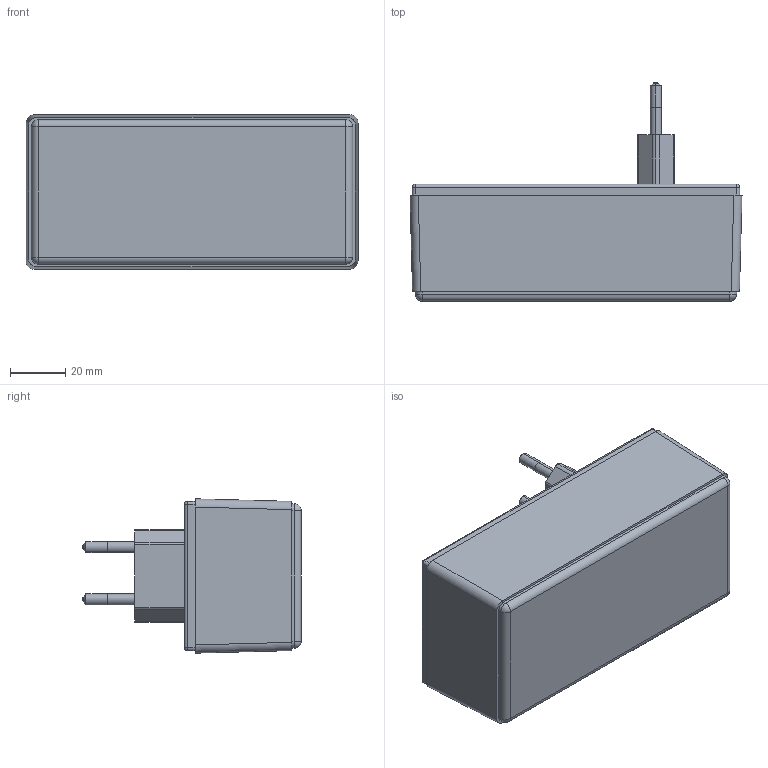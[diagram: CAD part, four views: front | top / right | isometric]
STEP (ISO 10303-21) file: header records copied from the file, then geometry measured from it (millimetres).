
FILE_DESCRIPTION (( 'STEP AP214' ), '1' );
FILE_NAME ('Conjunt PP55.STEP', '2017-01-23T11:15:54', ( 'aaa' ), ( '' ), 'SwSTEP 2.0', 'SolidWorks 2013', '' );
FILE_SCHEMA (( 'AUTOMOTIVE_DESIGN' ));
Length unit declared in the file: millimetre
Products named in the file (5): Cargol M 3x20 PP55; Cargol 2,1x6,5 PP55; Tapa PP55; Cuerpo PP55; Conjunt PP55
Assembly tree (7 placements, depth 2):
  Conjunt PP55
    Cuerpo PP55
    Tapa PP55
    Cargol 2,1x6,5 PP55  x2
    Cargol M 3x20 PP55  x3
Bounding box: 120.5 x 79.3 x 56 mm (x, y, z)
Volume: 64100.1 mm3; surface area: 63394.9 mm2
Topology: 9 solids, 9 shells, 886 faces, 1867 edges, 1038 vertices
Faces by surface type: cone 560, plane 173, cylinder 131, torus 14, sphere 8
Entity records: 13198 total; most frequent: DIRECTION 2413, CARTESIAN_POINT 2132, ORIENTED_EDGE 2014, EDGE_CURVE 1007, AXIS2_PLACEMENT_3D 938, VERTEX_POINT 593, VECTOR 537, LINE 537
